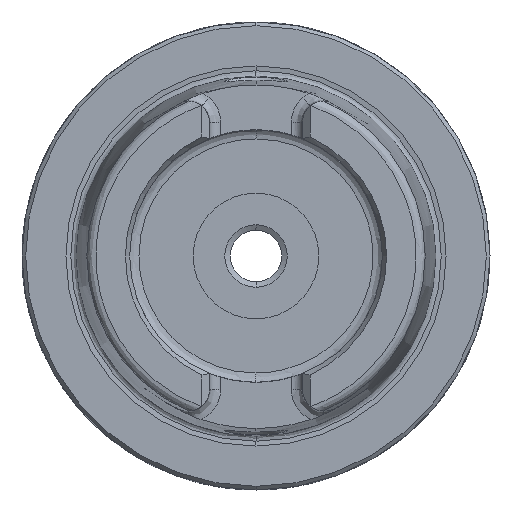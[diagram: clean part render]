
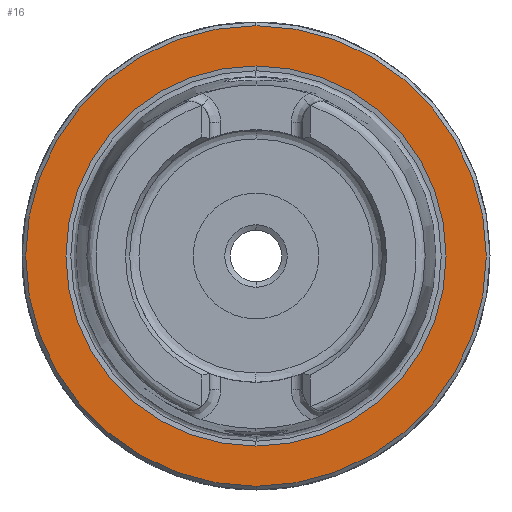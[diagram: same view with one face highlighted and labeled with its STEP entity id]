
A CAD part, left-side view. The second image highlights one B-rep face of the part: STEP entity #16.
In plain terms, the highlighted planar face has unit normal (-1, 0, 0).
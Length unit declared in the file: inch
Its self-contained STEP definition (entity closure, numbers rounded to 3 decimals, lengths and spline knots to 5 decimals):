
#16 = ADVANCED_FACE ( 'NONE', ( #2744, #5304 ), #6532, .T. ) ;
#75 = CARTESIAN_POINT ( 'NONE',  ( 0., 1.22047, 0. ) ) ;
#494 = CIRCLE ( 'NONE', #6317, 1.22047 ) ;
#794 = DIRECTION ( 'NONE',  ( 1., 0., 0. ) ) ;
#882 = DIRECTION ( 'NONE',  ( 0., 0., 1. ) ) ;
#946 = EDGE_LOOP ( 'NONE', ( #6164, #1854 ) ) ;
#1029 = EDGE_LOOP ( 'NONE', ( #7092, #1260 ) ) ;
#1142 = DIRECTION ( 'NONE',  ( 1., 0., 0. ) ) ;
#1260 = ORIENTED_EDGE ( 'NONE', *, *, #8028, .T. ) ;
#1267 = CARTESIAN_POINT ( 'NONE',  ( 0., 0., 0. ) ) ;
#1712 = VERTEX_POINT ( 'NONE', #7370 ) ;
#1854 = ORIENTED_EDGE ( 'NONE', *, *, #7924, .F. ) ;
#1864 = CIRCLE ( 'NONE', #8113, 1.22047 ) ;
#2149 = EDGE_CURVE ( 'NONE', #3065, #8152, #5120, .T. ) ;
#2660 = DIRECTION ( 'NONE',  ( -1., 0., 0. ) ) ;
#2744 = FACE_BOUND ( 'NONE', #1029, .T. ) ;
#2809 = DIRECTION ( 'NONE',  ( 0., 0., -1. ) ) ;
#2894 = CARTESIAN_POINT ( 'NONE',  ( 0., 0., 0. ) ) ;
#2946 = AXIS2_PLACEMENT_3D ( 'NONE', #4070, #3415, #882 ) ;
#3065 = VERTEX_POINT ( 'NONE', #4304 ) ;
#3206 = DIRECTION ( 'NONE',  ( 0., 0., 1. ) ) ;
#3415 = DIRECTION ( 'NONE',  ( 1., 0., 0. ) ) ;
#3665 = EDGE_CURVE ( 'NONE', #1712, #5821, #494, .T. ) ;
#4070 = CARTESIAN_POINT ( 'NONE',  ( 0., 0., 0. ) ) ;
#4304 = CARTESIAN_POINT ( 'NONE',  ( 0., 0., 1.0074 ) ) ;
#4405 = CARTESIAN_POINT ( 'NONE',  ( 0., 0., -1.0074 ) ) ;
#4576 = DIRECTION ( 'NONE',  ( 0., 0., -1. ) ) ;
#4754 = AXIS2_PLACEMENT_3D ( 'NONE', #75, #2660, #3206 ) ;
#5120 = CIRCLE ( 'NONE', #7014, 1.0074 ) ;
#5304 = FACE_OUTER_BOUND ( 'NONE', #946, .T. ) ;
#5821 = VERTEX_POINT ( 'NONE', #6084 ) ;
#6084 = CARTESIAN_POINT ( 'NONE',  ( 0., 0., 1.22047 ) ) ;
#6164 = ORIENTED_EDGE ( 'NONE', *, *, #3665, .F. ) ;
#6317 = AXIS2_PLACEMENT_3D ( 'NONE', #2894, #6687, #2809 ) ;
#6532 = PLANE ( 'NONE',  #4754 ) ;
#6687 = DIRECTION ( 'NONE',  ( 1., 0., 0. ) ) ;
#6958 = CARTESIAN_POINT ( 'NONE',  ( 0., 0., 0. ) ) ;
#7014 = AXIS2_PLACEMENT_3D ( 'NONE', #6958, #1142, #7080 ) ;
#7080 = DIRECTION ( 'NONE',  ( 0., 0., 1. ) ) ;
#7092 = ORIENTED_EDGE ( 'NONE', *, *, #2149, .T. ) ;
#7370 = CARTESIAN_POINT ( 'NONE',  ( 0., 0., -1.22047 ) ) ;
#7924 = EDGE_CURVE ( 'NONE', #5821, #1712, #1864, .T. ) ;
#8028 = EDGE_CURVE ( 'NONE', #8152, #3065, #8381, .T. ) ;
#8113 = AXIS2_PLACEMENT_3D ( 'NONE', #1267, #794, #4576 ) ;
#8152 = VERTEX_POINT ( 'NONE', #4405 ) ;
#8381 = CIRCLE ( 'NONE', #2946, 1.0074 ) ;
